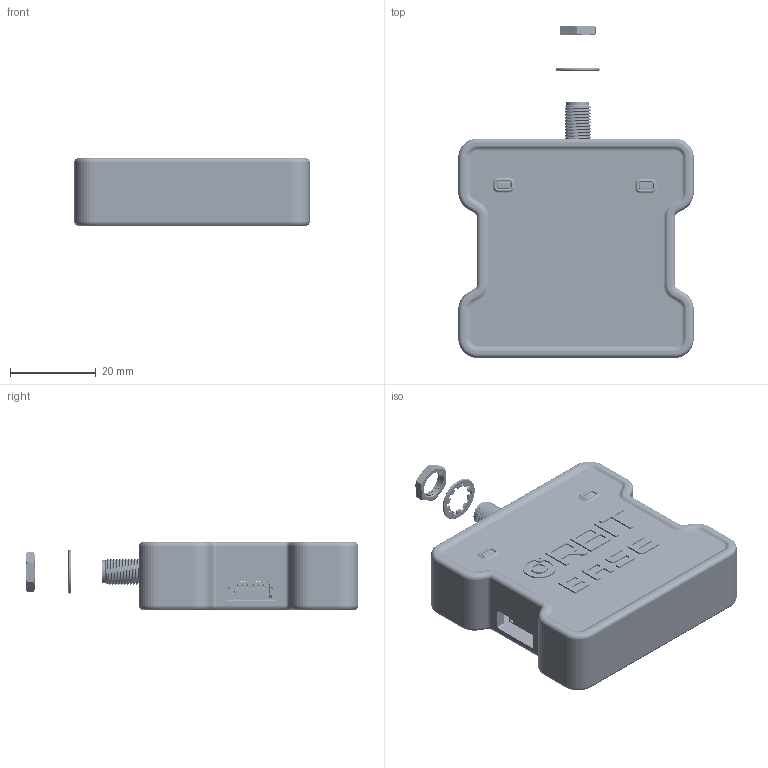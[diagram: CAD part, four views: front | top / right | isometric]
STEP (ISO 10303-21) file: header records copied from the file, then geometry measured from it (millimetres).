
FILE_DESCRIPTION (( 'STEP AP214' ), '1' );
FILE_NAME ('Enclosure-Orbit-BASE(ZED-F9).STEP', '2025-06-17T13:43:36', ( '' ), ( '' ), 'SwSTEP 2.0', 'SolidWorks 2024', '' );
FILE_SCHEMA (( 'AUTOMOTIVE_DESIGN' ));
Length unit declared in the file: millimetre
Products named in the file (7): Top Enclosure; M2 Thread Insert; LED Cover; Orbit-BASE(ZED-F9); Enclosure-Orbit-BASE(ZED-F9); Bottom Enclosure; M2 x 0.4 x 8 Screw
Assembly tree (13 placements, depth 2):
  Enclosure-Orbit-BASE(ZED-F9)
    Top Enclosure
    LED Cover  x2
    Bottom Enclosure
    Orbit-BASE(ZED-F9)
    M2 Thread Insert  x4
    M2 x 0.4 x 8 Screw  x4
Bounding box: 55 x 77.53 x 15.9 mm (x, y, z)
Volume: 20521.4 mm3; surface area: 28770.1 mm2
Topology: 265 solids, 266 shells, 7066 faces, 18212 edges, 11792 vertices
Faces by surface type: plane 4120, cylinder 2363, bspline 180, cone 159, torus 156, sphere 88
Entity records: 190703 total; most frequent: CARTESIAN_POINT 41476, ORIENTED_EDGE 30518, DIRECTION 29913, EDGE_CURVE 15259, LINE 10961, VECTOR 10961, VERTEX_POINT 9886, AXIS2_PLACEMENT_3D 9476
